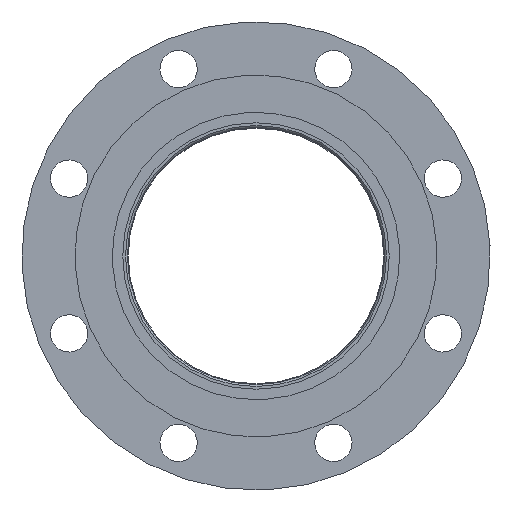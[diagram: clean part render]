
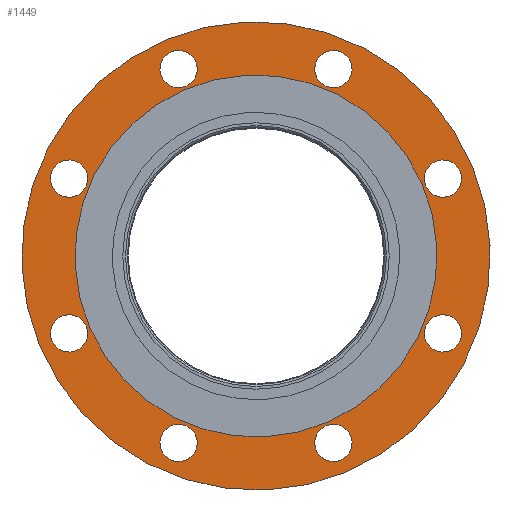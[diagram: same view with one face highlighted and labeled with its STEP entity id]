
A CAD part, front view. The second image highlights one B-rep face of the part: STEP entity #1449.
In plain terms, the highlighted planar face has unit normal (0, -1, 0) as drawn and (0, 0, -1) by its records, which use the part's own axes.
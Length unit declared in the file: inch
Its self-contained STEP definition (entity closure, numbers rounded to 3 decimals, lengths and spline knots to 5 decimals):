
#1310=CARTESIAN_POINT('',(3.96875,0.,0.0));
#1311=VERTEX_POINT('',#1310);
#1312=CARTESIAN_POINT('',(0.0,0.0,0.0));
#1313=DIRECTION('',(0.0,0.0,-1.0));
#1314=DIRECTION('',(-1.0,0.0,0.0));
#1315=AXIS2_PLACEMENT_3D('',#1312,#1313,#1314);
#1316=CIRCLE('',#1315,3.96875);
#1317=EDGE_CURVE('',#1311,#1311,#1316,.T.);
#1342=CARTESIAN_POINT('',(0.0,0.0,0.0));
#1343=DIRECTION('',(0.0,0.0,-1.0));
#1344=DIRECTION('',(-1.0,0.0,0.0));
#1345=AXIS2_PLACEMENT_3D('',#1342,#1343,#1344);
#1346=PLANE('',#1345);
#1347=CARTESIAN_POINT('',(5.5,0.,0.0));
#1348=VERTEX_POINT('',#1347);
#1349=CARTESIAN_POINT('',(0.0,0.0,0.0));
#1350=DIRECTION('',(0.0,0.0,-1.0));
#1351=DIRECTION('',(-1.0,0.0,0.0));
#1352=AXIS2_PLACEMENT_3D('',#1349,#1350,#1351);
#1353=CIRCLE('',#1352,5.5);
#1354=EDGE_CURVE('',#1348,#1348,#1353,.T.);
#1355=ORIENTED_EDGE('',*,*,#1354,.T.);
#1356=EDGE_LOOP('',(#1355));
#1357=FACE_OUTER_BOUND('',#1356,.T.);
#1358=CARTESIAN_POINT('',(-0.4375,4.75,0.0));
#1359=VERTEX_POINT('',#1358);
#1360=CARTESIAN_POINT('',(0.0,4.75,0.0));
#1361=DIRECTION('',(0.0,0.0,1.0));
#1362=DIRECTION('',(-1.0,0.0,0.0));
#1363=AXIS2_PLACEMENT_3D('',#1360,#1361,#1362);
#1364=CIRCLE('',#1363,0.4375);
#1365=EDGE_CURVE('',#1359,#1359,#1364,.T.);
#1366=ORIENTED_EDGE('',*,*,#1365,.T.);
#1367=EDGE_LOOP('',(#1366));
#1368=FACE_BOUND('',#1367,.T.);
#1369=CARTESIAN_POINT('',(-3.66812,3.0494,0.0));
#1370=VERTEX_POINT('',#1369);
#1371=CARTESIAN_POINT('',(-3.35876,3.35876,0.0));
#1372=DIRECTION('',(0.0,0.0,1.0));
#1373=DIRECTION('',(-0.707,-0.707,0.0));
#1374=AXIS2_PLACEMENT_3D('',#1371,#1372,#1373);
#1375=CIRCLE('',#1374,0.4375);
#1376=EDGE_CURVE('',#1370,#1370,#1375,.T.);
#1377=ORIENTED_EDGE('',*,*,#1376,.T.);
#1378=EDGE_LOOP('',(#1377));
#1379=FACE_BOUND('',#1378,.T.);
#1380=CARTESIAN_POINT('',(-4.75,-0.4375,0.0));
#1381=VERTEX_POINT('',#1380);
#1382=CARTESIAN_POINT('',(-4.75,0.,0.0));
#1383=DIRECTION('',(0.0,0.0,1.0));
#1384=DIRECTION('',(0.0,-1.0,0.0));
#1385=AXIS2_PLACEMENT_3D('',#1382,#1383,#1384);
#1386=CIRCLE('',#1385,0.4375);
#1387=EDGE_CURVE('',#1381,#1381,#1386,.T.);
#1388=ORIENTED_EDGE('',*,*,#1387,.T.);
#1389=EDGE_LOOP('',(#1388));
#1390=FACE_BOUND('',#1389,.T.);
#1391=CARTESIAN_POINT('',(-3.0494,-3.66812,0.0));
#1392=VERTEX_POINT('',#1391);
#1393=CARTESIAN_POINT('',(-3.35876,-3.35876,0.0));
#1394=DIRECTION('',(0.0,0.0,1.0));
#1395=DIRECTION('',(0.707,-0.707,0.0));
#1396=AXIS2_PLACEMENT_3D('',#1393,#1394,#1395);
#1397=CIRCLE('',#1396,0.4375);
#1398=EDGE_CURVE('',#1392,#1392,#1397,.T.);
#1399=ORIENTED_EDGE('',*,*,#1398,.T.);
#1400=EDGE_LOOP('',(#1399));
#1401=FACE_BOUND('',#1400,.T.);
#1402=CARTESIAN_POINT('',(0.4375,-4.75,0.0));
#1403=VERTEX_POINT('',#1402);
#1404=CARTESIAN_POINT('',(0.,-4.75,0.0));
#1405=DIRECTION('',(0.0,0.0,1.0));
#1406=DIRECTION('',(1.0,0.0,0.0));
#1407=AXIS2_PLACEMENT_3D('',#1404,#1405,#1406);
#1408=CIRCLE('',#1407,0.4375);
#1409=EDGE_CURVE('',#1403,#1403,#1408,.T.);
#1410=ORIENTED_EDGE('',*,*,#1409,.T.);
#1411=EDGE_LOOP('',(#1410));
#1412=FACE_BOUND('',#1411,.T.);
#1413=CARTESIAN_POINT('',(3.66812,-3.0494,0.0));
#1414=VERTEX_POINT('',#1413);
#1415=CARTESIAN_POINT('',(3.35876,-3.35876,0.0));
#1416=DIRECTION('',(0.0,0.0,1.0));
#1417=DIRECTION('',(0.707,0.707,0.0));
#1418=AXIS2_PLACEMENT_3D('',#1415,#1416,#1417);
#1419=CIRCLE('',#1418,0.4375);
#1420=EDGE_CURVE('',#1414,#1414,#1419,.T.);
#1421=ORIENTED_EDGE('',*,*,#1420,.T.);
#1422=EDGE_LOOP('',(#1421));
#1423=FACE_BOUND('',#1422,.T.);
#1424=CARTESIAN_POINT('',(4.75,0.4375,0.0));
#1425=VERTEX_POINT('',#1424);
#1426=CARTESIAN_POINT('',(4.75,0.,0.0));
#1427=DIRECTION('',(0.0,0.0,1.0));
#1428=DIRECTION('',(0.0,1.0,0.0));
#1429=AXIS2_PLACEMENT_3D('',#1426,#1427,#1428);
#1430=CIRCLE('',#1429,0.4375);
#1431=EDGE_CURVE('',#1425,#1425,#1430,.T.);
#1432=ORIENTED_EDGE('',*,*,#1431,.T.);
#1433=EDGE_LOOP('',(#1432));
#1434=FACE_BOUND('',#1433,.T.);
#1435=CARTESIAN_POINT('',(3.0494,3.66812,0.0));
#1436=VERTEX_POINT('',#1435);
#1437=CARTESIAN_POINT('',(3.35876,3.35876,0.0));
#1438=DIRECTION('',(0.0,0.0,1.0));
#1439=DIRECTION('',(-0.707,0.707,0.0));
#1440=AXIS2_PLACEMENT_3D('',#1437,#1438,#1439);
#1441=CIRCLE('',#1440,0.4375);
#1442=EDGE_CURVE('',#1436,#1436,#1441,.T.);
#1443=ORIENTED_EDGE('',*,*,#1442,.T.);
#1444=EDGE_LOOP('',(#1443));
#1445=FACE_BOUND('',#1444,.T.);
#1446=ORIENTED_EDGE('',*,*,#1317,.F.);
#1447=EDGE_LOOP('',(#1446));
#1448=FACE_BOUND('',#1447,.T.);
#1449=ADVANCED_FACE('',(#1357,#1368,#1379,#1390,#1401,#1412,#1423,#1434,#1445,#1448),#1346,.T.);
